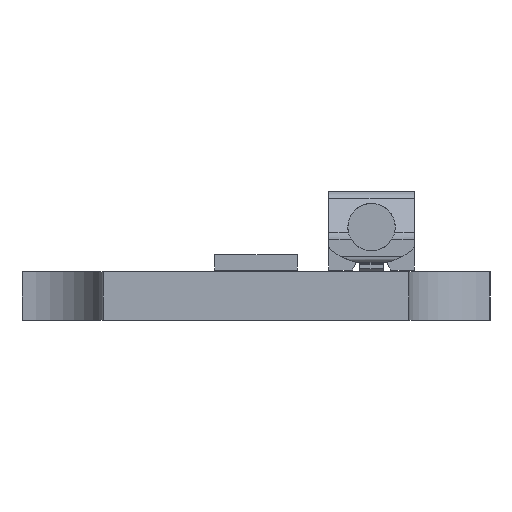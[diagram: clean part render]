
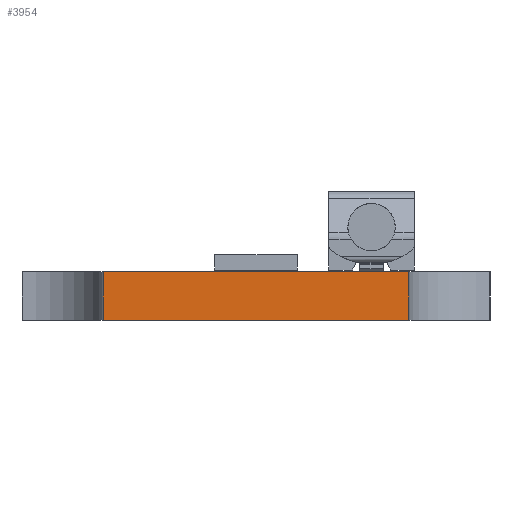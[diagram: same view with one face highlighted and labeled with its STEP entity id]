
A CAD part, left-side view. The second image highlights one B-rep face of the part: STEP entity #3954.
In plain terms, the highlighted planar face has unit normal (-1, 0, 0).
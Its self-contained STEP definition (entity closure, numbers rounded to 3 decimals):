
#881=DIRECTION('',(0.,0.,1.));
#882=VECTOR('',#881,1.65);
#883=CARTESIAN_POINT('',(-69.8,5.15,0.));
#884=LINE('',#883,#882);
#895=DIRECTION('',(0.,1.,0.));
#896=VECTOR('',#895,10.3);
#897=CARTESIAN_POINT('',(-69.8,-5.15,1.65));
#898=LINE('',#897,#896);
#902=DIRECTION('',(0.,0.,-1.));
#903=VECTOR('',#902,1.65);
#904=CARTESIAN_POINT('',(-69.8,-5.15,1.65));
#905=LINE('',#904,#903);
#931=DIRECTION('',(0.,1.,0.));
#932=VECTOR('',#931,10.3);
#933=CARTESIAN_POINT('',(-69.8,-5.15,0.));
#934=LINE('',#933,#932);
#2921=CARTESIAN_POINT('',(-69.8,-5.15,1.65));
#2922=CARTESIAN_POINT('',(-69.8,5.15,1.65));
#2923=VERTEX_POINT('',#2921);
#2924=VERTEX_POINT('',#2922);
#2973=CARTESIAN_POINT('',(-69.8,-5.15,0.));
#2974=VERTEX_POINT('',#2973);
#2975=CARTESIAN_POINT('',(-69.8,5.15,0.));
#2976=VERTEX_POINT('',#2975);
#3941=CARTESIAN_POINT('',(-69.8,5.15,1.65));
#3942=DIRECTION('',(-1.,0.,0.));
#3943=DIRECTION('',(0.,0.,1.));
#3944=AXIS2_PLACEMENT_3D('',#3941,#3942,#3943);
#3945=PLANE('',#3944);
#3947=ORIENTED_EDGE('',*,*,#3946,.T.);
#3949=ORIENTED_EDGE('',*,*,#3948,.T.);
#3950=ORIENTED_EDGE('',*,*,#3925,.T.);
#3951=ORIENTED_EDGE('',*,*,#3839,.F.);
#3952=EDGE_LOOP('',(#3947,#3949,#3950,#3951));
#3953=FACE_OUTER_BOUND('',#3952,.F.);
#3839=EDGE_CURVE('',#2923,#2924,#898,.T.);
#3925=EDGE_CURVE('',#2976,#2924,#884,.T.);
#3946=EDGE_CURVE('',#2923,#2974,#905,.T.);
#3948=EDGE_CURVE('',#2974,#2976,#934,.T.);
#3954=ADVANCED_FACE('',(#3953),#3945,.T.);
